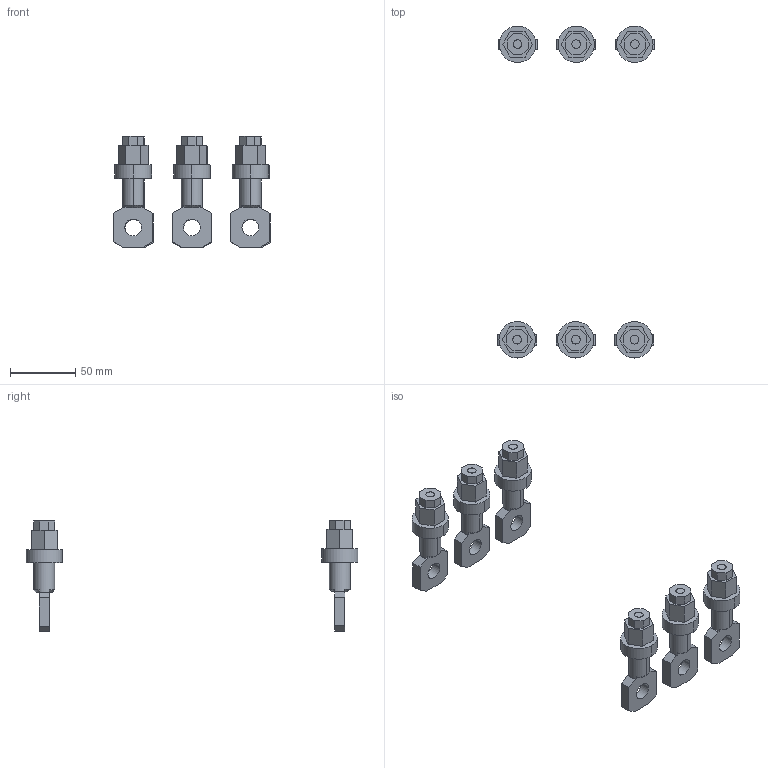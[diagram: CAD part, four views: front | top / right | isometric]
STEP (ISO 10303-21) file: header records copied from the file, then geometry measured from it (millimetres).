
FILE_DESCRIPTION (( 'STEP AP214' ), '1' );
FILE_NAME ('ÊÇÏ OptiMat D400, D630 6 øò êîðîòêèå ãîðèçîíòàëüíûå.STEP', '2023-04-04T02:29:53', ( '' ), ( '' ), 'SwSTEP 2.0', 'SolidWorks 2018', '' );
FILE_SCHEMA (( 'AUTOMOTIVE_DESIGN' ));
Length unit declared in the file: millimetre
Products named in the file (2): 是蟔姰喈猹ī; ÊÇÏ OptiMat D400, D630 6 øò êîðîòêèå ãîðèçîíòàëüíûå
Assembly tree (6 placements, depth 2):
  ÊÇÏ OptiMat D400, D630 6 øò êîðîòêèå ãîðèçîíòàëüíûå
    是蟔姰喈猹ī  x6
Bounding box: 120.38 x 255 x 85.5 mm (x, y, z)
Volume: 130128.5 mm3; surface area: 45513.7 mm2
Topology: 6 solids, 6 shells, 276 faces, 696 edges, 462 vertices
Faces by surface type: plane 198, cylinder 60, cone 18
Entity records: 1493 total; most frequent: CARTESIAN_POINT 260, DIRECTION 249, ORIENTED_EDGE 232, EDGE_CURVE 116, VECTOR 85, LINE 85, AXIS2_PLACEMENT_3D 82, VERTEX_POINT 77
